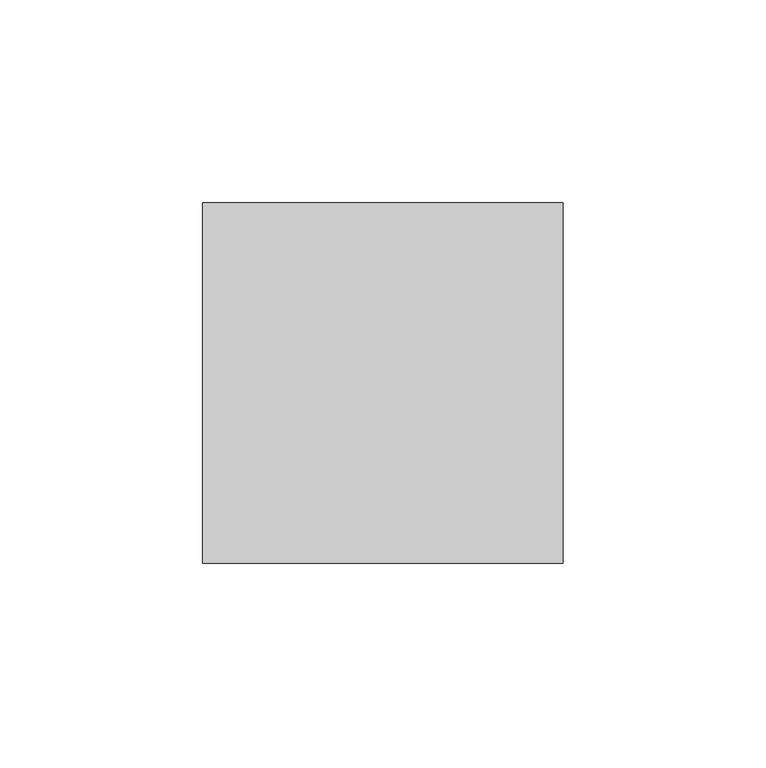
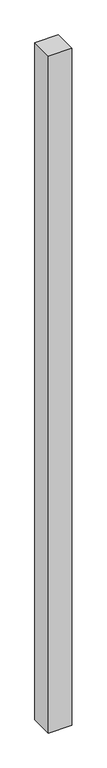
"""IFC4 building model written with IfcOpenShell, lengths in millimetres: column geometry, Trus Joist - TimberStrand LSL - Post Column : TimberStrand® 1.3E – 3 1/2 x 3 1/2”."""

from ifc_helpers import new_model, si_unit, frame, origin, place, context, project, spatial, polyline, outline, extrude, source, transform, mapped, element, save


def column_2bb05049(model_context):
    return source(origin(), model_context, "Body", "SweptSolid", [
        extrude(outline(polyline([(44.45, 44.45), (44.45, -44.45), (-44.45, -44.45), (-44.45, 44.45), (44.45, 44.45)])), frame((0.0, 0.0, 31.75), z_axis=(0.0, 0.0, 1.0), x_axis=(1.0, 0.0, 0.0)), (0.0, 0.0, 1.0), 2708.275),
    ])


if __name__ == "__main__":
    model = new_model("IFC4")
    model_context = context("Model", 3, world=origin())
    ifc_project = project(units=[si_unit("LENGTHUNIT", "METRE", prefix="MILLI")], contexts=[model_context])
    site = spatial("IfcSite", under=ifc_project)
    building = spatial("IfcBuilding", under=site)
    placement = place(None, origin())
    column_shape = column_2bb05049(model_context)
    element("IfcColumn", 1, ObjectType="Trus Joist - TimberStrand LSL - Post Column : TimberStrand® 1.3E – 3 1/2 x 3 1/2”", at=placement, inside=building, context=model_context, shape_type="MappedRepresentation", body=[
        mapped(column_shape, transform((0.0, 0.0, 0.0), x_axis=(1.0, 0.0, 0.0), y_axis=(0.0, 1.0, 0.0), z_axis=(0.0, 0.0, 1.0))),
    ])
    save(model, "model.ifc")
